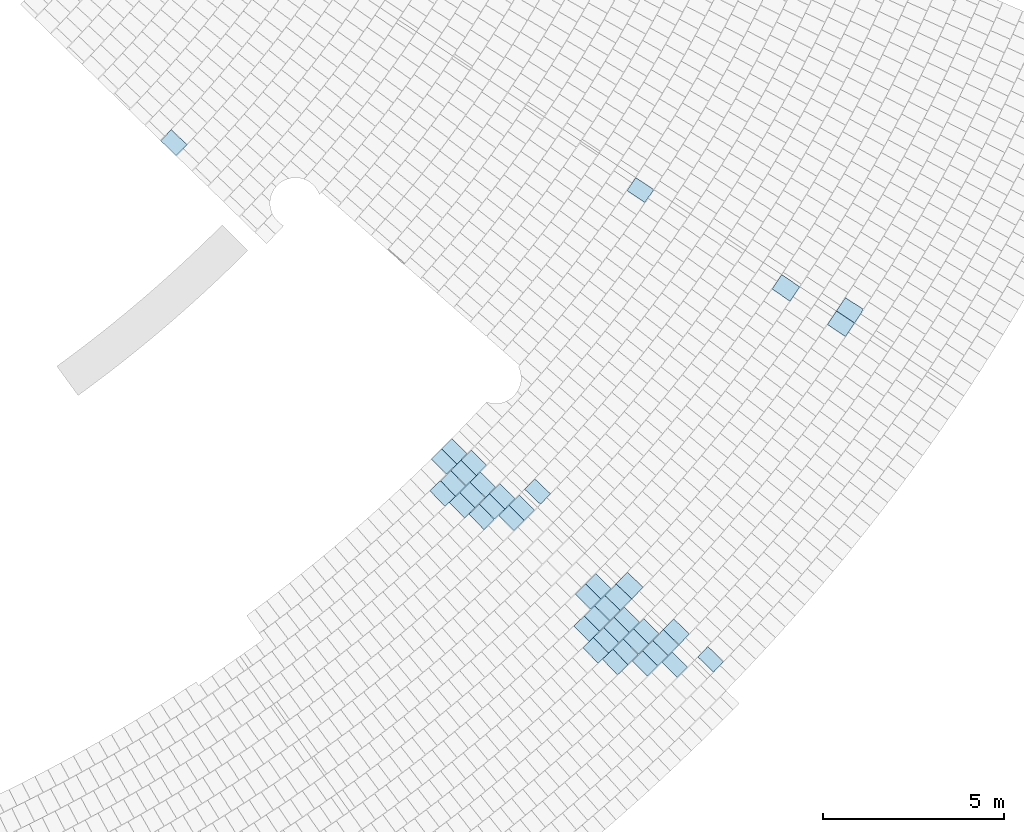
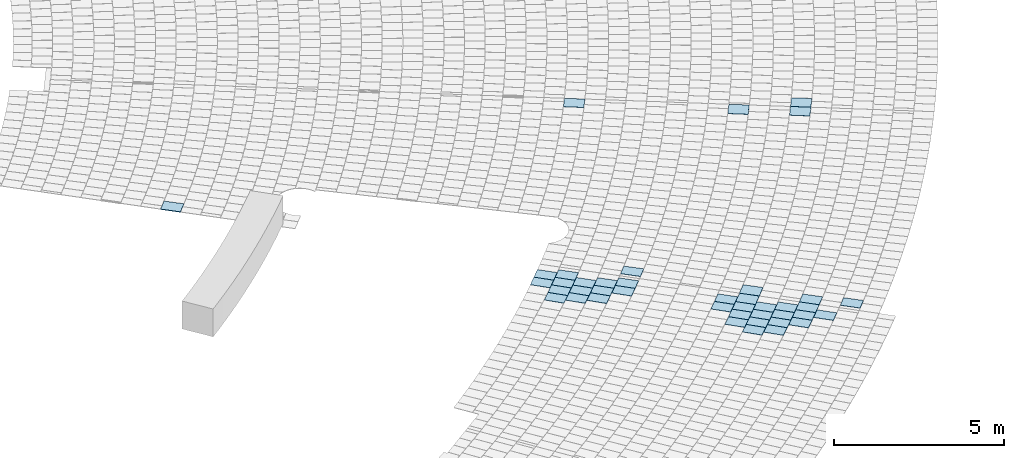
# One storey, part 11 of 438: 41 slabs.
"""IFC2X3 building model written with IfcOpenShell, lengths in millimetres."""

from ifc_helpers import new_model, entity, si_unit, converted_unit, derived_unit, direction, frame, origin, place, context, subcontext, project, spatial, polyline, outline, extrude, material, layer, layer_set, layer_usage, type_object, element, save


model = new_model("IFC2X3")

# Units and contexts
model_context = context("Model", 3, precision=0.01, world=origin(), true_north=direction((6.123031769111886e-17, 1.0)))
body_context = subcontext(model_context, "Body", "Model", "MODEL_VIEW")
ifc_project = project(units=[si_unit("LENGTHUNIT", "METRE", prefix="MILLI"), si_unit("AREAUNIT", "SQUARE_METRE"), si_unit("VOLUMEUNIT", "CUBIC_METRE"), converted_unit("PLANEANGLEUNIT", "DEGREE", entity("IfcRatioMeasure", 0.017453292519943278), si_unit("PLANEANGLEUNIT", "RADIAN"), dimensions=[0, 0, 0, 0, 0, 0, 0]), si_unit("MASSUNIT", "GRAM", prefix="KILO"), derived_unit("MASSDENSITYUNIT", [(si_unit("MASSUNIT", "GRAM", prefix="KILO"), 1), (si_unit("LENGTHUNIT", "METRE"), -3)]), derived_unit("MOMENTOFINERTIAUNIT", [(si_unit("LENGTHUNIT", "METRE"), 4)]), si_unit("TIMEUNIT", "SECOND"), si_unit("FREQUENCYUNIT", "HERTZ"), si_unit("THERMODYNAMICTEMPERATUREUNIT", "DEGREE_CELSIUS"), derived_unit("THERMALTRANSMITTANCEUNIT", [(si_unit("MASSUNIT", "GRAM", prefix="KILO"), 1), (si_unit("THERMODYNAMICTEMPERATUREUNIT", "KELVIN"), -1), (si_unit("TIMEUNIT", "SECOND"), -3)]), derived_unit("THERMALCONDUCTANCEUNIT", [(si_unit("MASSUNIT", "GRAM", prefix="KILO"), 1), (si_unit("LENGTHUNIT", "METRE"), 1), (si_unit("THERMODYNAMICTEMPERATUREUNIT", "KELVIN"), -1), (si_unit("TIMEUNIT", "SECOND"), -3)]), derived_unit("VOLUMETRICFLOWRATEUNIT", [(si_unit("LENGTHUNIT", "METRE"), 3), (si_unit("TIMEUNIT", "SECOND"), -1)]), derived_unit("MASSFLOWRATEUNIT", [(si_unit("MASSUNIT", "GRAM", prefix="KILO"), 1), (si_unit("TIMEUNIT", "SECOND"), -1)]), derived_unit("ROTATIONALFREQUENCYUNIT", [(si_unit("TIMEUNIT", "SECOND"), -1)]), si_unit("ELECTRICCURRENTUNIT", "AMPERE"), si_unit("ELECTRICVOLTAGEUNIT", "VOLT"), si_unit("POWERUNIT", "WATT"), converted_unit("FORCEUNIT", "KIP", entity("IfcRatioMeasure", 2.088543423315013e-05), si_unit("FORCEUNIT", "NEWTON"), dimensions=[1, 1, -2, 0, 0, 0, 0]), si_unit("ILLUMINANCEUNIT", "LUX"), si_unit("LUMINOUSFLUXUNIT", "LUMEN"), si_unit("LUMINOUSINTENSITYUNIT", "CANDELA"), derived_unit("USERDEFINED", [(si_unit("MASSUNIT", "GRAM", prefix="KILO"), -1), (si_unit("LENGTHUNIT", "METRE"), -2), (si_unit("TIMEUNIT", "SECOND"), 3), (si_unit("LUMINOUSFLUXUNIT", "LUMEN"), 1)]), derived_unit("USERDEFINED", [(si_unit("MASSUNIT", "GRAM", prefix="KILO"), 1), (si_unit("LENGTHUNIT", "METRE"), 3), (si_unit("TIMEUNIT", "SECOND"), -3), (si_unit("ELECTRICCURRENTUNIT", "AMPERE"), -2)]), derived_unit("USERDEFINED", [(si_unit("LENGTHUNIT", "METRE"), 2), (si_unit("TIMEUNIT", "SECOND"), -2)]), derived_unit("SOUNDPOWERUNIT", [(si_unit("MASSUNIT", "GRAM", prefix="KILO"), 1), (si_unit("LENGTHUNIT", "METRE"), 2), (si_unit("TIMEUNIT", "SECOND"), -3)]), derived_unit("SOUNDPRESSUREUNIT", [(si_unit("MASSUNIT", "GRAM", prefix="KILO"), 1), (si_unit("LENGTHUNIT", "METRE"), -1), (si_unit("TIMEUNIT", "SECOND"), -2)]), derived_unit("LINEARVELOCITYUNIT", [(si_unit("LENGTHUNIT", "METRE"), 1), (si_unit("TIMEUNIT", "SECOND"), -1)]), si_unit("PRESSUREUNIT", "PASCAL"), derived_unit("USERDEFINED", [(si_unit("LENGTHUNIT", "METRE"), -2), (si_unit("MASSUNIT", "GRAM", prefix="KILO"), 1), (si_unit("TIMEUNIT", "SECOND"), -2)]), derived_unit("LINEARFORCEUNIT", [(si_unit("MASSUNIT", "GRAM", prefix="KILO"), 1), (si_unit("LENGTHUNIT", "METRE"), 1), (si_unit("TIMEUNIT", "SECOND"), -2), (si_unit("LENGTHUNIT", "METRE"), -1)]), derived_unit("PLANARFORCEUNIT", [(si_unit("MASSUNIT", "GRAM", prefix="KILO"), 1), (si_unit("LENGTHUNIT", "METRE"), 1), (si_unit("TIMEUNIT", "SECOND"), -2), (si_unit("LENGTHUNIT", "METRE"), -2)]), derived_unit("SPECIFICHEATCAPACITYUNIT", [(si_unit("LENGTHUNIT", "METRE"), 2), (si_unit("TIMEUNIT", "SECOND"), -2), (si_unit("THERMODYNAMICTEMPERATUREUNIT", "KELVIN"), -1)]), derived_unit("VAPORPERMEABILITYUNIT", [(si_unit("TIMEUNIT", "SECOND"), 1), (si_unit("LENGTHUNIT", "METRE"), -1)]), derived_unit("DYNAMICVISCOSITYUNIT", [(si_unit("MASSUNIT", "GRAM", prefix="KILO"), 1), (si_unit("LENGTHUNIT", "METRE"), -1), (si_unit("TIMEUNIT", "SECOND"), -1)]), derived_unit("THERMALEXPANSIONCOEFFICIENTUNIT", [(si_unit("THERMODYNAMICTEMPERATUREUNIT", "KELVIN"), -1)])], contexts=[model_context])

# Site, building, storey
site_placement = place(None, frame((0.0, 0.0, 0.0), z_axis=(0.0, 0.0, 1.0), x_axis=(0.8191520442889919, 0.5735764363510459, 0.0)))
site = spatial("IfcSite", under=ifc_project, at=site_placement, Name="Default", CompositionType="ELEMENT")
building_placement = place(site_placement, origin())
building = spatial("IfcBuilding", under=site, at=building_placement, CompositionType="ELEMENT")
storey_placement = place(building_placement, origin())
storey = spatial("IfcBuildingStorey", under=building, at=storey_placement, Name="PLAN", CompositionType="ELEMENT", Elevation=0.0)

# Slabs
ifc_material = material(Name="Paint-01")
ifc_layer = layer(ifc_material, 20.00000000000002)
ifc_layer_set = layer_set([ifc_layer], Name="Floor:Slab-179:1000")
ifc_layer_usage = layer_usage(ifc_layer_set, "AXIS3", "POSITIVE", 0.0)
slab_type = type_object("IfcSlabType", Name="Floor:Slab-179:1000", PredefinedType="FLOOR", material=ifc_layer_set)
slab_1_placement = place(storey_placement, origin())
element("IfcSlab", 1, at=slab_1_placement, inside=storey, type_object=slab_type, material=ifc_layer_usage, Name="Floor:Slab-179:1000", ObjectType="Floor:Slab-179:1000", PredefinedType="FLOOR", context=body_context, shape_type="SweptSolid", body=[
    extrude(outline(polyline([(-300.0, -200.00000294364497), (299.99999762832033, -200.00000294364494), (300.0, 200.00000294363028), (-299.9999976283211, 200.0000029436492), (-300.0, -200.00000294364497)])), frame((-32059.002361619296, -113910.74212613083, 520.0), z_axis=(0.0, 0.0, -1.0), x_axis=(0.1769403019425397, -0.9842215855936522, 0.0)), (0.0, 0.0, 1.0), 19.99999999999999),
])
slab_2_placement = place(storey_placement, origin())
element("IfcSlab", 2, at=slab_2_placement, inside=storey, type_object=slab_type, material=ifc_layer_usage, Name="Floor:Slab-179:1000", ObjectType="Floor:Slab-179:1000", PredefinedType="FLOOR", context=body_context, shape_type="SweptSolid", body=[
    extrude(outline(polyline([(-300.0, -200.00000294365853), (299.99999762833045, -200.0000029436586), (300.0, 200.00000294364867), (-299.9999976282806, 200.00000294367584), (-300.0, -200.00000294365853)])), frame((-32455.536076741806, -113980.26665674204, 520.0), z_axis=(0.0, 0.0, -1.0), x_axis=(0.16844921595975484, -0.9857103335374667, 0.0)), (0.0, 0.0, 1.0), 20.000000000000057),
])
slab_3_placement = place(storey_placement, origin())
element("IfcSlab", 3, at=slab_3_placement, inside=storey, type_object=slab_type, material=ifc_layer_usage, Name="Floor:Slab-179:1000", ObjectType="Floor:Slab-179:1000", PredefinedType="FLOOR", context=body_context, shape_type="SweptSolid", body=[
    extrude(outline(polyline([(-299.9999975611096, -212.6252060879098), (300.0, -212.62520608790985), (299.9999975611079, 212.62520608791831), (-300.0, 212.62520608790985), (-299.9999975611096, -212.6252060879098)])), frame((-33518.69307145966, -102488.95539469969, 520.0), z_axis=(0.0, 0.0, -1.0), x_axis=(0.19360341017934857, -0.9810798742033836, 0.0)), (0.0, 0.0, 1.0), 19.99999999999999),
])
slab_4_placement = place(storey_placement, origin())
element("IfcSlab", 4, at=slab_4_placement, inside=storey, type_object=slab_type, material=ifc_layer_usage, Name="Floor:Slab-179:1000", ObjectType="Floor:Slab-179:1000", PredefinedType="FLOOR", context=body_context, shape_type="SweptSolid", body=[
    extrude(outline(polyline([(-300.0, -215.73772442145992), (299.99999754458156, -215.73772442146), (300.0, 215.73772442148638), (-299.9999975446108, 215.73772442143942), (-300.0, -215.73772442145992)])), frame((-23719.35157238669, -110948.72817718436, 520.0), z_axis=(0.0, 0.0, -1.0), x_axis=(0.3598672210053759, -0.9330035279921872, 0.0)), (0.0, 0.0, 1.0), 20.000000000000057),
])
slab_5_placement = place(storey_placement, origin())
element("IfcSlab", 5, at=slab_5_placement, inside=storey, type_object=slab_type, material=ifc_layer_usage, Name="Floor:Slab-179:1000", ObjectType="Floor:Slab-179:1000", PredefinedType="FLOOR", context=body_context, shape_type="SweptSolid", body=[
    extrude(outline(polyline([(-300.0, -200.00000294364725), (299.99999762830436, -200.00000294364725), (300.0, 200.00000294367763), (-299.999997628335, 200.00000294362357), (-300.0, -200.00000294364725)])), frame((-29555.539478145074, -122673.5612925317, 520.0), z_axis=(0.0, 0.0, -1.0), x_axis=(0.19303586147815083, -0.9811917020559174, 0.0)), (0.0, 0.0, 1.0), 20.000000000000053),
])
slab_6_placement = place(storey_placement, origin())
element("IfcSlab", 6, at=slab_6_placement, inside=storey, type_object=slab_type, material=ifc_layer_usage, Name="Floor:Slab-179:1000", ObjectType="Floor:Slab-179:1000", PredefinedType="FLOOR", context=body_context, shape_type="SweptSolid", body=[
    extrude(outline(polyline([(-299.9999975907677, -207.04852597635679), (300.0, -207.04852597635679), (299.9999975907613, 207.04852597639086), (-300.0, 207.0485259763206), (-299.9999975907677, -207.04852597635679)])), frame((-30307.925542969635, -121585.78284910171, 520.0), z_axis=(0.0, 0.0, -1.0), x_axis=(0.18340071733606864, -0.9830382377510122, 0.0)), (0.0, 0.0, 1.0), 20.000000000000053),
])
slab_7_placement = place(storey_placement, origin())
element("IfcSlab", 7, at=slab_7_placement, inside=storey, type_object=slab_type, material=ifc_layer_usage, Name="Floor:Slab-179:1000", ObjectType="Floor:Slab-179:1000", PredefinedType="FLOOR", context=body_context, shape_type="SweptSolid", body=[
    extrude(outline(polyline([(-299.99999762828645, -200.00000294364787), (300.0, -200.00000294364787), (299.9999976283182, 200.0000029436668), (-300.0, 200.0000029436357), (-299.99999762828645, -200.00000294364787)])), frame((-30710.510171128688, -121659.3831729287, 520.0), z_axis=(0.0, 0.0, -1.0), x_axis=(0.1761496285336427, -0.9843634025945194, 0.0)), (0.0, 0.0, 1.0), 19.999999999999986),
])
slab_8_placement = place(storey_placement, origin())
element("IfcSlab", 8, at=slab_8_placement, inside=storey, type_object=slab_type, material=ifc_layer_usage, Name="Floor:Slab-179:1000", ObjectType="Floor:Slab-179:1000", PredefinedType="FLOOR", context=body_context, shape_type="SweptSolid", body=[
    extrude(outline(polyline([(-299.99999762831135, -200.0000029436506), (300.0, -200.0000029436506), (299.99999762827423, 200.00000294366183), (-300.0, 200.00000294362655), (-299.99999762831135, -200.0000029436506)])), frame((-31106.68807190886, -121728.77239742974, 520.0), z_axis=(0.0, 0.0, -1.0), x_axis=(0.16888896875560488, -0.985635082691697, 0.0)), (0.0, 0.0, 1.0), 19.99999999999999),
])
slab_9_placement = place(storey_placement, origin())
element("IfcSlab", 9, at=slab_9_placement, inside=storey, type_object=slab_type, material=ifc_layer_usage, Name="Floor:Slab-179:1000", ObjectType="Floor:Slab-179:1000", PredefinedType="FLOOR", context=body_context, shape_type="SweptSolid", body=[
    extrude(outline(polyline([(-299.99999762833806, -200.00000294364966), (300.0, -200.00000294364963), (299.99999762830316, 200.0000029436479), (-300.0, 200.00000294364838), (-299.99999762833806, -200.00000294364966)])), frame((-30966.532737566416, -121090.37054367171, 520.0), z_axis=(0.0, 0.0, -1.0), x_axis=(0.17337994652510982, -0.9848550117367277, 0.0)), (0.0, 0.0, 1.0), 19.99999999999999),
])
slab_10_placement = place(storey_placement, origin())
element("IfcSlab", 10, at=slab_10_placement, inside=storey, type_object=slab_type, material=ifc_layer_usage, Name="Floor:Slab-179:1000", ObjectType="Floor:Slab-179:1000", PredefinedType="FLOOR", context=body_context, shape_type="SweptSolid", body=[
    extrude(outline(polyline([(-299.99999762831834, -200.0000029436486), (300.0, -200.0000029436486), (299.9999976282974, 200.0000029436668), (-300.0, 200.0000029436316), (-299.99999762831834, -200.0000029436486)])), frame((-30570.653724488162, -121019.15532517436, 520.0), z_axis=(0.0, 0.0, -1.0), x_axis=(0.18071647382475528, -0.9835352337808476, 0.0)), (0.0, 0.0, 1.0), 20.000000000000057),
])
slab_11_placement = place(storey_placement, origin())
element("IfcSlab", 11, at=slab_11_placement, inside=storey, type_object=slab_type, material=ifc_layer_usage, Name="Floor:Slab-179:1000", ObjectType="Floor:Slab-179:1000", PredefinedType="FLOOR", context=body_context, shape_type="SweptSolid", body=[
    extrude(outline(polyline([(-299.9999976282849, -200.00000294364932), (300.0, -200.0000029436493), (299.9999976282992, 200.0000029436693), (-300.0, 200.0000029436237), (-299.9999976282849, -200.00000294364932)])), frame((-31362.931607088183, -121158.63280691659, 520.0), z_axis=(0.0, 0.0, -1.0), x_axis=(0.1660337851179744, -0.9861200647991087, 0.0)), (0.0, 0.0, 1.0), 20.000000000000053),
])
slab_12_placement = place(storey_placement, origin())
element("IfcSlab", 12, at=slab_12_placement, inside=storey, type_object=slab_type, material=ifc_layer_usage, Name="Floor:Slab-179:1000", ObjectType="Floor:Slab-179:1000", PredefinedType="FLOOR", context=body_context, shape_type="SweptSolid", body=[
    extrude(outline(polyline([(-299.9999976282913, -200.00000294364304), (300.0, -200.00000294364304), (299.9999976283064, 200.00000294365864), (-300.0, 200.00000294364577), (-299.9999976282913, -200.00000294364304)])), frame((-31759.828306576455, -121223.93832181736, 520.0), z_axis=(0.0, 0.0, -1.0), x_axis=(0.15867839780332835, -0.9873303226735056, 0.0)), (0.0, 0.0, 1.0), 20.000000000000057),
])
slab_13_placement = place(storey_placement, origin())
element("IfcSlab", 13, at=slab_13_placement, inside=storey, type_object=slab_type, material=ifc_layer_usage, Name="Floor:Slab-179:1000", ObjectType="Floor:Slab-179:1000", PredefinedType="FLOOR", context=body_context, shape_type="SweptSolid", body=[
    extrude(outline(polyline([(-299.99999762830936, -200.00000294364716), (300.0, -200.00000294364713), (299.9999976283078, 200.00000294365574), (-300.0, 200.000002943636), (-299.99999762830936, -200.00000294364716)])), frame((-31222.649940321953, -120520.93114501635, 520.0), z_axis=(0.0, 0.0, -1.0), x_axis=(0.17054567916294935, -0.985349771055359, 0.0)), (0.0, 0.0, 1.0), 20.000000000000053),
])
slab_14_placement = place(storey_placement, origin())
element("IfcSlab", 14, at=slab_14_placement, inside=storey, type_object=slab_type, material=ifc_layer_usage, Name="Floor:Slab-179:1000", ObjectType="Floor:Slab-179:1000", PredefinedType="FLOOR", context=body_context, shape_type="SweptSolid", body=[
    extrude(outline(polyline([(-299.9999976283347, -200.00000294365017), (300.0, -200.00000294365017), (299.99999762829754, 200.0000029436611), (-300.0, 200.00000294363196), (-299.9999976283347, -200.00000294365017)])), frame((-30826.545601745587, -120450.83394763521, 520.0), z_axis=(0.0, 0.0, -1.0), x_axis=(0.17796961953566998, -0.984035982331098, 0.0)), (0.0, 0.0, 1.0), 20.000000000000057),
])
slab_15_placement = place(storey_placement, origin())
element("IfcSlab", 15, at=slab_15_placement, inside=storey, type_object=slab_type, material=ifc_layer_usage, Name="Floor:Slab-179:1000", ObjectType="Floor:Slab-179:1000", PredefinedType="FLOOR", context=body_context, shape_type="SweptSolid", body=[
    extrude(outline(polyline([(-299.9999976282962, -200.0000029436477), (300.0, -200.00000294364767), (299.9999976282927, 200.00000294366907), (-300.0, 200.00000294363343), (-299.9999976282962, -200.0000029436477)])), frame((-31619.271500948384, -120588.04002495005, 520.0), z_axis=(0.0, 0.0, -1.0), x_axis=(0.1631120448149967, -0.9866075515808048, 0.0)), (0.0, 0.0, 1.0), 19.99999999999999),
])
slab_16_placement = place(storey_placement, origin())
element("IfcSlab", 16, at=slab_16_placement, inside=storey, type_object=slab_type, material=ifc_layer_usage, Name="Floor:Slab-179:1000", ObjectType="Floor:Slab-179:1000", PredefinedType="FLOOR", context=body_context, shape_type="SweptSolid", body=[
    extrude(outline(polyline([(-299.9999976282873, -200.0000029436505), (300.0, -200.0000029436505), (299.99999762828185, 200.0000029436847), (-300.0, 200.00000294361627), (-299.9999976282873, -200.0000029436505)])), frame((-32016.38773928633, -120652.15677290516, 520.0), z_axis=(0.0, 0.0, -1.0), x_axis=(0.15566913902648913, -0.9878092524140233, 0.0)), (0.0, 0.0, 1.0), 19.99999999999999),
])
slab_17_placement = place(storey_placement, origin())
element("IfcSlab", 17, at=slab_17_placement, inside=storey, type_object=slab_type, material=ifc_layer_usage, Name="Floor:Slab-179:1000", ObjectType="Floor:Slab-179:1000", PredefinedType="FLOOR", context=body_context, shape_type="SweptSolid", body=[
    extrude(outline(polyline([(-299.99999762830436, -200.00000294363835), (300.0, -200.00000294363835), (299.99999762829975, 200.00000294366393), (-300.0, 200.00000294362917), (-299.99999762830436, -200.00000294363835)])), frame((-31082.53219368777, -119882.09724647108, 520.0), z_axis=(0.0, 0.0, -1.0), x_axis=(0.17515796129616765, -0.9845403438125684, 0.0)), (0.0, 0.0, 1.0), 20.000000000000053),
])
slab_18_placement = place(storey_placement, origin())
element("IfcSlab", 18, at=slab_18_placement, inside=storey, type_object=slab_type, material=ifc_layer_usage, Name="Floor:Slab-179:1000", ObjectType="Floor:Slab-179:1000", PredefinedType="FLOOR", context=body_context, shape_type="SweptSolid", body=[
    extrude(outline(polyline([(-299.9999975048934, -223.19635474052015), (300.0, -223.19635474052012), (299.99999750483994, 223.1963547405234), (-300.0, 223.19635474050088), (-299.9999975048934, -223.19635474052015)])), frame((-30663.931877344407, -119805.88702069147, 520.0), z_axis=(0.0, 0.0, -1.0), x_axis=(0.18266116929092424, -0.9831759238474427, 0.0)), (0.0, 0.0, 1.0), 20.000000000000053),
])
slab_19_placement = place(storey_placement, origin())
element("IfcSlab", 19, at=slab_19_placement, inside=storey, type_object=slab_type, material=ifc_layer_usage, Name="Floor:Slab-179:1000", ObjectType="Floor:Slab-179:1000", PredefinedType="FLOOR", context=body_context, shape_type="SweptSolid", body=[
    extrude(outline(polyline([(-299.9999976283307, -200.00000294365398), (300.0, -200.00000294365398), (299.9999976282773, 200.0000029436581), (-300.0, 200.00000294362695), (-299.9999976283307, -200.00000294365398)])), frame((-31478.863787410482, -119951.0499007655, 520.0), z_axis=(0.0, 0.0, -1.0), x_axis=(0.16764456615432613, -0.9858475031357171, 0.0)), (0.0, 0.0, 1.0), 19.99999999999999),
])
slab_20_placement = place(storey_placement, origin())
element("IfcSlab", 20, at=slab_20_placement, inside=storey, type_object=slab_type, material=ifc_layer_usage, Name="Floor:Slab-179:1000", ObjectType="Floor:Slab-179:1000", PredefinedType="FLOOR", context=body_context, shape_type="SweptSolid", body=[
    extrude(outline(polyline([(-299.9999976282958, -200.000002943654), (300.0, -200.000002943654), (299.9999976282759, 200.0000029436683), (-300.0, 200.00000294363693), (-299.9999976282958, -200.000002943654)])), frame((-31875.70970258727, -120016.97804592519, 520.0), z_axis=(0.0, 0.0, -1.0), x_axis=(0.16012142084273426, -0.9870973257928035, 0.0)), (0.0, 0.0, 1.0), 20.000000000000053),
])
slab_21_placement = place(storey_placement, origin())
element("IfcSlab", 21, at=slab_21_placement, inside=storey, type_object=slab_type, material=ifc_layer_usage, Name="Floor:Slab-179:1000", ObjectType="Floor:Slab-179:1000", PredefinedType="FLOOR", context=body_context, shape_type="SweptSolid", body=[
    extrude(outline(polyline([(-299.9999976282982, -200.0000029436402), (300.0, -200.00000294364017), (299.9999976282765, 200.00000294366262), (-300.0, 200.0000029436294), (-299.9999976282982, -200.0000029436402)])), frame((-30942.589607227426, -119242.09220648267, 520.0), z_axis=(0.0, 0.0, -1.0), x_axis=(0.17987391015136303, -0.983689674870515, 0.0)), (0.0, 0.0, 1.0), 20.000000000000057),
])
slab_22_placement = place(storey_placement, origin())
element("IfcSlab", 22, at=slab_22_placement, inside=storey, type_object=slab_type, material=ifc_layer_usage, Name="Floor:Slab-179:1000", ObjectType="Floor:Slab-179:1000", PredefinedType="FLOOR", context=body_context, shape_type="SweptSolid", body=[
    extrude(outline(polyline([(-299.9999976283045, -200.00000294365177), (300.0, -200.00000294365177), (299.9999976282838, 200.00000294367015), (-300.0, 200.00000294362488), (-299.9999976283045, -200.00000294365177)])), frame((-31338.615591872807, -119312.93037554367, 520.0), z_axis=(0.0, 0.0, -1.0), x_axis=(0.17227920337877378, -0.9850481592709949, 0.0)), (0.0, 0.0, 1.0), 20.000000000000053),
])
slab_23_placement = place(storey_placement, origin())
element("IfcSlab", 23, at=slab_23_placement, inside=storey, type_object=slab_type, material=ifc_layer_usage, Name="Floor:Slab-179:1000", ObjectType="Floor:Slab-179:1000", PredefinedType="FLOOR", context=body_context, shape_type="SweptSolid", body=[
    extrude(outline(polyline([(-299.9999976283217, -200.00000294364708), (300.0, -200.00000294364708), (299.9999976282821, 200.0000029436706), (-300.0, 200.00000294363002), (-299.9999976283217, -200.00000294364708)])), frame((-31430.572622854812, -116256.13248964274, 520.0), z_axis=(0.0, 0.0, -1.0), x_axis=(0.18101673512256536, -0.9834800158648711, 0.0)), (0.0, 0.0, 1.0), 20.000000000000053),
])
slab_24_placement = place(storey_placement, origin())
element("IfcSlab", 24, at=slab_24_placement, inside=storey, type_object=slab_type, material=ifc_layer_usage, Name="Floor:Slab-179:1000", ObjectType="Floor:Slab-179:1000", PredefinedType="FLOOR", context=body_context, shape_type="SweptSolid", body=[
    extrude(outline(polyline([(-299.99999762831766, -200.0000029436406), (300.0, -200.0000029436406), (299.99999762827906, 200.0000029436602), (-300.0, 200.00000294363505), (-299.99999762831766, -200.0000029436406)])), frame((-31826.67384003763, -116327.36142490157, 520.0), z_axis=(0.0, 0.0, -1.0), x_axis=(0.17295278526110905, -0.9849301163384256, 0.0)), (0.0, 0.0, 1.0), 19.99999999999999),
])
slab_25_placement = place(storey_placement, origin())
element("IfcSlab", 25, at=slab_25_placement, inside=storey, type_object=slab_type, material=ifc_layer_usage, Name="Floor:Slab-179:1000", ObjectType="Floor:Slab-179:1000", PredefinedType="FLOOR", context=body_context, shape_type="SweptSolid", body=[
    extrude(outline(polyline([(-299.9999976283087, -200.0000029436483), (300.0, -200.0000029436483), (299.999997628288, 200.0000029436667), (-300.0, 200.0000029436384), (-299.9999976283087, -200.0000029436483)])), frame((-32082.893283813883, -115757.84882882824, 520.0), z_axis=(0.0, 0.0, -1.0), x_axis=(0.16982832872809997, -0.9854736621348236, 0.0)), (0.0, 0.0, 1.0), 19.99999999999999),
])
slab_26_placement = place(storey_placement, origin())
element("IfcSlab", 26, at=slab_26_placement, inside=storey, type_object=slab_type, material=ifc_layer_usage, Name="Floor:Slab-179:1000", ObjectType="Floor:Slab-179:1000", PredefinedType="FLOOR", context=body_context, shape_type="SweptSolid", body=[
    extrude(outline(polyline([(-299.9999976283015, -200.0000029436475), (300.0, -200.0000029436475), (299.9999976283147, 200.00000294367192), (-300.0, 200.0000029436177), (-299.9999976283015, -200.0000029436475)])), frame((-31686.541473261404, -115687.85071705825, 520.0), z_axis=(0.0, 0.0, -1.0), x_axis=(0.1779980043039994, -0.9840308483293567, 0.0)), (0.0, 0.0, 1.0), 20.000000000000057),
])
slab_27_placement = place(storey_placement, origin())
element("IfcSlab", 27, at=slab_27_placement, inside=storey, type_object=slab_type, material=ifc_layer_usage, Name="Floor:Slab-179:1000", ObjectType="Floor:Slab-179:1000", PredefinedType="FLOOR", context=body_context, shape_type="SweptSolid", body=[
    extrude(outline(polyline([(-299.99999762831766, -200.0000029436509), (300.0, -200.0000029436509), (299.999997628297, 200.0000029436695), (-300.0, 200.00000294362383), (-299.99999762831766, -200.0000029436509)])), frame((-32479.812161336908, -115824.55638496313, 520.0), z_axis=(0.0, 0.0, -1.0), x_axis=(0.16164696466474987, -0.9868486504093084, 0.0)), (0.0, 0.0, 1.0), 20.000000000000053),
])
slab_28_placement = place(storey_placement, origin())
element("IfcSlab", 28, at=slab_28_placement, inside=storey, type_object=slab_type, material=ifc_layer_usage, Name="Floor:Slab-179:1000", ObjectType="Floor:Slab-179:1000", PredefinedType="FLOOR", context=body_context, shape_type="SweptSolid", body=[
    extrude(outline(polyline([(-299.99999762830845, -200.00000294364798), (300.0, -200.00000294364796), (299.99999762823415, 200.00000294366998), (-300.0, 200.0000029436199), (-299.99999762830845, -200.00000294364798)])), frame((-31942.61667924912, -115119.11214532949, 520.0), z_axis=(0.0, 0.0, -1.0), x_axis=(0.17490081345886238, -0.9845860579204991, 0.0)), (0.0, 0.0, 1.0), 19.999999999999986),
])
slab_29_placement = place(storey_placement, origin())
element("IfcSlab", 29, at=slab_29_placement, inside=storey, type_object=slab_type, material=ifc_layer_usage, Name="Floor:Slab-179:1000", ObjectType="Floor:Slab-179:1000", PredefinedType="FLOOR", context=body_context, shape_type="SweptSolid", body=[
    extrude(outline(polyline([(-299.99999762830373, -200.00000294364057), (300.0, -200.00000294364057), (299.9999976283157, 200.00000294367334), (-300.0, 200.00000294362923), (-299.99999762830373, -200.00000294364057)])), frame((-32339.221478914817, -115187.84724882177, 520.0), z_axis=(0.0, 0.0, -1.0), x_axis=(0.16662269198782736, -0.9860207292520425, 0.0)), (0.0, 0.0, 1.0), 20.000000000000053),
])
slab_30_placement = place(storey_placement, origin())
element("IfcSlab", 30, at=slab_30_placement, inside=storey, type_object=slab_type, material=ifc_layer_usage, Name="Floor:Slab-179:1000", ObjectType="Floor:Slab-179:1000", PredefinedType="FLOOR", context=body_context, shape_type="SweptSolid", body=[
    extrude(outline(polyline([(-299.9999976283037, -200.00000294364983), (300.0, -200.0000029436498), (299.999997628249, 200.00000294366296), (-300.0, 200.0000029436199), (-299.9999976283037, -200.00000294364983)])), frame((-32736.389755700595, -115253.2478717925, 520.0), z_axis=(0.0, 0.0, -1.0), x_axis=(0.15833280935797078, -0.9873858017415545, 0.0)), (0.0, 0.0, 1.0), 19.99999999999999),
])
slab_31_placement = place(storey_placement, origin())
element("IfcSlab", 31, at=slab_31_placement, inside=storey, type_object=slab_type, material=ifc_layer_usage, Name="Floor:Slab-179:1000", ObjectType="Floor:Slab-179:1000", PredefinedType="FLOOR", context=body_context, shape_type="SweptSolid", body=[
    extrude(outline(polyline([(-299.9999976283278, -200.00000294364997), (300.0, -200.00000294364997), (299.9999976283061, 200.00000294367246), (-300.0, 200.00000294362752), (-299.9999976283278, -200.00000294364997)])), frame((-31802.528984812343, -114479.08543675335, 520.0), z_axis=(0.0, 0.0, -1.0), x_axis=(0.18009905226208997, -0.9836484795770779, 0.0)), (0.0, 0.0, 1.0), 19.99999999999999),
])
slab_32_placement = place(storey_placement, origin())
element("IfcSlab", 32, at=slab_32_placement, inside=storey, type_object=slab_type, material=ifc_layer_usage, Name="Floor:Slab-179:1000", ObjectType="Floor:Slab-179:1000", PredefinedType="FLOOR", context=body_context, shape_type="SweptSolid", body=[
    extrude(outline(polyline([(-299.9999986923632, -200.00000294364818), (300.0000008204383, -200.00000294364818), (299.99999869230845, 200.0000029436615), (-300.00000082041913, 200.00000294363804), (-299.9999986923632, -200.00000294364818)])), frame((-32993.08060152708, -114681.39648920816, 520.0), z_axis=(0.0, 0.0, -1.0), x_axis=(0.15493148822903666, -0.9879252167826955, 0.0)), (0.0, 0.0, 1.0), 19.99999999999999),
])
slab_33_placement = place(storey_placement, origin())
element("IfcSlab", 33, at=slab_33_placement, inside=storey, type_object=slab_type, material=ifc_layer_usage, Name="Floor:Slab-179:1000", ObjectType="Floor:Slab-179:1000", PredefinedType="FLOOR", context=body_context, shape_type="SweptSolid", body=[
    extrude(outline(polyline([(-299.99999762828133, -200.00000294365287), (300.0, -200.00000294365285), (299.9999976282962, 200.00000294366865), (-300.0, 200.00000294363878), (-299.99999762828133, -200.00000294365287)])), frame((-32198.800859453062, -114549.89875322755, 520.0), z_axis=(0.0, 0.0, -1.0), x_axis=(0.17172209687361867, -0.9851454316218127, 0.0)), (0.0, 0.0, 1.0), 20.000000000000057),
])
slab_34_placement = place(storey_placement, origin())
element("IfcSlab", 34, at=slab_34_placement, inside=storey, type_object=slab_type, material=ifc_layer_usage, Name="Floor:Slab-179:1000", ObjectType="Floor:Slab-179:1000", PredefinedType="FLOOR", context=body_context, shape_type="SweptSolid", body=[
    extrude(outline(polyline([(-299.9999976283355, -200.00000294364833), (300.0, -200.0000029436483), (299.99999762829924, 200.00000294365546), (-300.0, 200.0000029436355), (-299.9999976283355, -200.00000294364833)])), frame((-32595.66097774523, -114617.3373989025, 520.0), z_axis=(0.0, 0.0, -1.0), x_axis=(0.16333270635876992, -0.9865710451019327, 0.0)), (0.0, 0.0, 1.0), 20.000000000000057),
])
slab_35_placement = place(storey_placement, origin())
element("IfcSlab", 35, at=slab_35_placement, inside=storey, type_object=slab_type, material=ifc_layer_usage, Name="Floor:Slab-179:1000", ObjectType="Floor:Slab-179:1000", PredefinedType="FLOOR", context=body_context, shape_type="SweptSolid", body=[
    extrude(outline(polyline([(-299.9999976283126, -200.0000029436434), (300.0, -200.0000029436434), (299.9999976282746, 200.0000029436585), (-300.0, 200.00000294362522), (-299.9999976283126, -200.0000029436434)])), frame((-30454.580267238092, -122227.98343435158, 520.0), z_axis=(0.0, 0.0, -1.0), x_axis=(0.17885688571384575, -0.9838751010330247, 0.0)), (0.0, 0.0, 1.0), 20.000000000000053),
])
slab_36_placement = place(storey_placement, origin())
element("IfcSlab", 36, at=slab_36_placement, inside=storey, type_object=slab_type, material=ifc_layer_usage, Name="Floor:Slab-179:1000", ObjectType="Floor:Slab-179:1000", PredefinedType="FLOOR", context=body_context, shape_type="SweptSolid", body=[
    extrude(outline(polyline([(-300.0, -223.1963547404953), (299.9999975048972, -223.1963547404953), (300.0, 223.19635474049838), (-299.99999750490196, 223.19635474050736), (-300.0, -223.1963547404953)])), frame((-20881.625435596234, -116984.62518999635, 520.0), z_axis=(0.0, 0.0, -1.0), x_axis=(0.3689487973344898, -0.9294497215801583, 0.0)), (0.0, 0.0, 1.0), 20.000000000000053),
])
slab_37_placement = place(storey_placement, origin())
element("IfcSlab", 37, at=slab_37_placement, inside=storey, type_object=slab_type, material=ifc_layer_usage, Name="Floor:Slab-179:1000", ObjectType="Floor:Slab-179:1000", PredefinedType="FLOOR", context=body_context, shape_type="SweptSolid", body=[
    extrude(outline(polyline([(-300.0, -200.000002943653), (299.99999762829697, -200.000002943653), (300.0, 200.00000294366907), (-299.9999976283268, 200.00000294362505), (-300.0, -200.000002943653)])), frame((-30816.095027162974, -116138.98328820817, 520.0), z_axis=(0.0, 0.0, -1.0), x_axis=(0.19352645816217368, -0.9810950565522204, 0.0)), (0.0, 0.0, 1.0), 19.99999999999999),
])
slab_38_placement = place(storey_placement, origin())
element("IfcSlab", 38, at=slab_38_placement, inside=storey, type_object=slab_type, material=ifc_layer_usage, Name="Floor:Slab-179:1000", ObjectType="Floor:Slab-179:1000", PredefinedType="FLOOR", context=body_context, shape_type="SweptSolid", body=[
    extrude(outline(polyline([(-299.99999741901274, -239.34434651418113), (300.0, -239.34434651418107), (299.99999741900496, 239.3443465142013), (-300.0, 239.3443465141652), (-299.99999741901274, -239.34434651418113)])), frame((-21976.6878887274, -115464.1290205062, 520.0), z_axis=(0.0, 0.0, -1.0), x_axis=(0.35945247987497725, -0.9331633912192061, 0.0)), (0.0, 0.0, 1.0), 19.99999999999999),
])
slab_39_placement = place(storey_placement, origin())
element("IfcSlab", 39, at=slab_39_placement, inside=storey, type_object=slab_type, material=ifc_layer_usage, Name="Floor:Slab-179:1000", ObjectType="Floor:Slab-179:1000", PredefinedType="FLOOR", context=body_context, shape_type="SweptSolid", body=[
    extrude(outline(polyline([(-300.0, -223.19635474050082), (299.9999975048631, -223.1963547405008), (300.0, 223.19635474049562), (-299.99999750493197, 223.19635474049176), (-300.0, -223.19635474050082)])), frame((-30222.92042649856, -119721.80887097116, 520.0), z_axis=(0.0, 0.0, -1.0), x_axis=(0.19188548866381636, -0.9814173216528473, 0.0)), (0.0, 0.0, 1.0), 19.99999999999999),
])
slab_40_placement = place(storey_placement, origin())
element("IfcSlab", 40, at=slab_40_placement, inside=storey, type_object=slab_type, material=ifc_layer_usage, Name="Floor:Slab-179:1000", ObjectType="Floor:Slab-179:1000", PredefinedType="FLOOR", context=body_context, shape_type="SweptSolid", body=[
    extrude(outline(polyline([(-299.99999750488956, -223.19635474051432), (300.0, -223.19635474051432), (299.9999975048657, 223.19635474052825), (-300.0, 223.19635474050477), (-299.99999750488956, -223.19635474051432)])), frame((-21299.679290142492, -117148.3053956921, 520.0), z_axis=(0.0, 0.0, -1.0), x_axis=(0.3602046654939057, -0.932873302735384, 0.0)), (0.0, 0.0, 1.0), 19.99999999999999),
])
slab_41_placement = place(storey_placement, origin())
element("IfcSlab", 41, at=slab_41_placement, inside=storey, type_object=slab_type, material=ifc_layer_usage, Name="Floor:Slab-179:1000", ObjectType="Floor:Slab-179:1000", PredefinedType="FLOOR", context=body_context, shape_type="SweptSolid", body=[
    extrude(outline(polyline([(-300.0, -207.04852597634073), (299.99999759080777, -207.0485259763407), (300.0, 207.04852597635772), (-299.99999759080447, 207.0485259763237), (-300.0, -207.04852597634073)])), frame((-29899.088557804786, -121507.83871140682, 520.0), z_axis=(0.0, 0.0, -1.0), x_axis=(0.19114715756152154, -0.9815613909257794, 0.0)), (0.0, 0.0, 1.0), 20.000000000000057),
])

save(model, "model.ifc")
